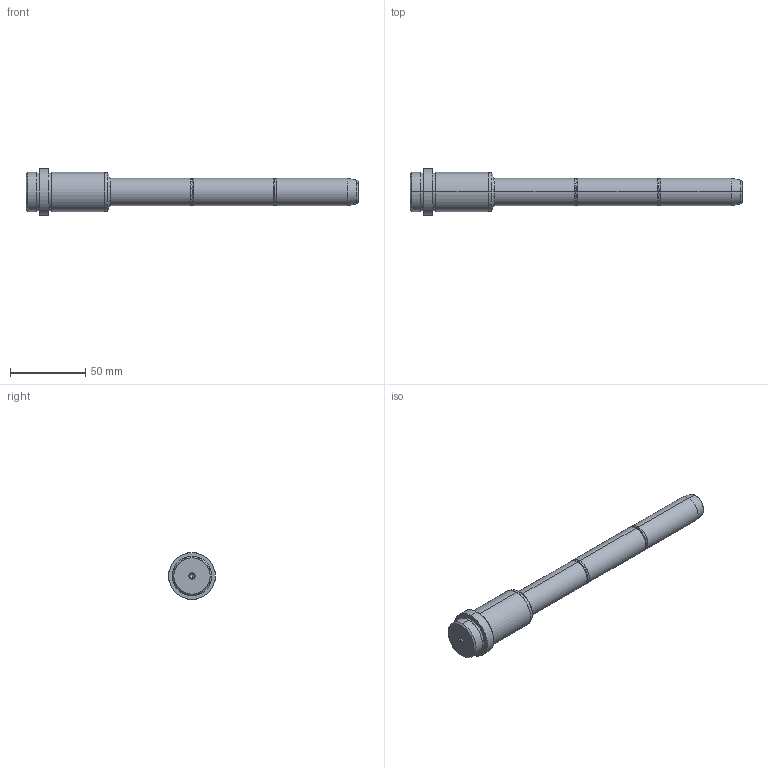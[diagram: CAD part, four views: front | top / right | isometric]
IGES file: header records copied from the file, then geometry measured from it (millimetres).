
Start section: SolidWorks IGES FILE using analytic representation for surfaces
Global section: file name: D:\zzzzz\Delta\D03\18\D03 - 18x46x165.IGS; native system: SolidWorks 2004 by SolidWorks Corporation; preprocessor: Version 5.3; author: Hkn; date: 080327.173445; units: millimetre
Bounding box: 220 x 31 x 31 mm (x, y, z)
Surface area: 15433.4 mm2 (no closed solid volume)
Topology: 0 solids, 0 shells, 56 faces, 768 edges, 764 vertices
Faces by surface type: revolution 36, bspline 20
